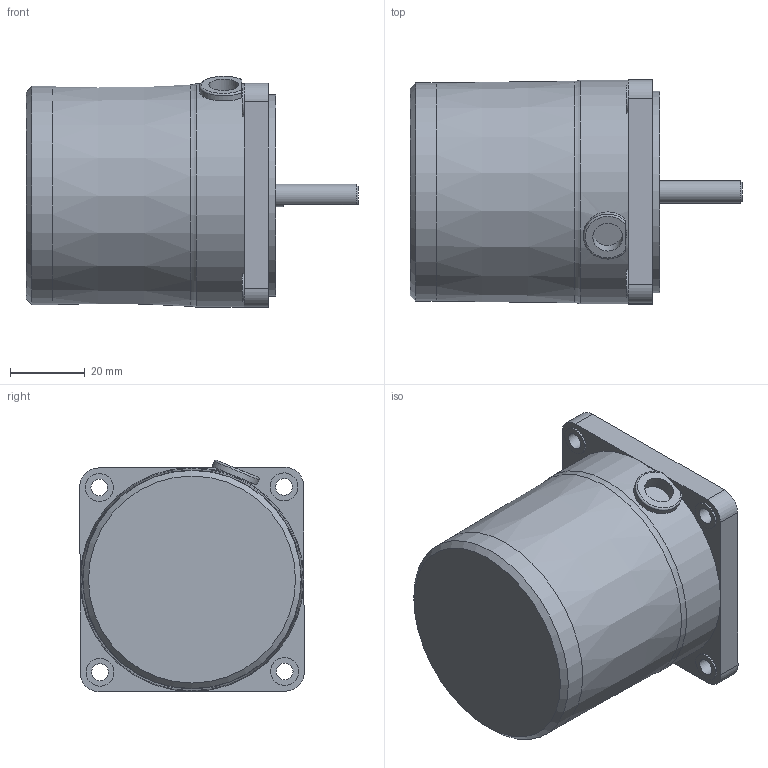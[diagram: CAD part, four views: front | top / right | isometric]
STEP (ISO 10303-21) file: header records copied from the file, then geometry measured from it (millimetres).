
FILE_DESCRIPTION((''),'2;1');
FILE_NAME('D:\김성묵\업무폴더\개발 파일\프로젝트 개발 AB등급\AC표준형 개발자료\90각 이하 표준형 개발\도면작성 자료\3D 도면\홈페이지용 3D 파일\3W MOTOR\S6I03D.stp','2015-03-25T10:59:29',('smkim'),(''),'Autodesk Inventor 2012','Autodesk Inventor 2012','');
FILE_SCHEMA(('AUTOMOTIVE_DESIGN { 1 0 10303 214 1 1 1 1 }'));
Length unit declared in the file: millimetre
Products named in the file (4): S6I03D; S6I03GㅁCE; S6_HOUSNG A_D; 6_CORD BUSH
Assembly tree (3 placements, depth 2):
  S6I03D
    S6I03GㅁCE
    S6_HOUSNG A_D
    6_CORD BUSH
Bounding box: 89 x 60.17 x 62.06 mm (x, y, z)
Volume: 182703.8 mm3; surface area: 27533.1 mm2
Topology: 3 solids, 3 shells, 84 faces, 206 edges, 135 vertices
Faces by surface type: plane 48, cylinder 29, cone 5, torus 2
Full cylindrical faces by diameter (mm): 4.5 x4, 6 x1, 7.5 x4, 8 x1, 10.1 x1, 25 x1, 54 x1, 58.5 x1, 60 x1
Entity records: 2540 total; most frequent: CARTESIAN_POINT 470, DIRECTION 433, ORIENTED_EDGE 366, EDGE_CURVE 183, AXIS2_PLACEMENT_3D 169, VERTEX_POINT 131, EDGE_LOOP 124, VECTOR 95
